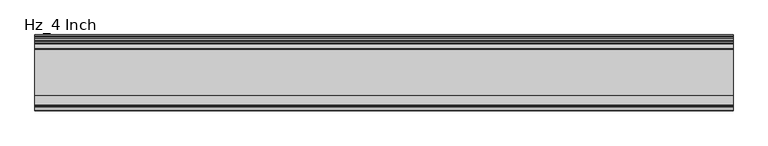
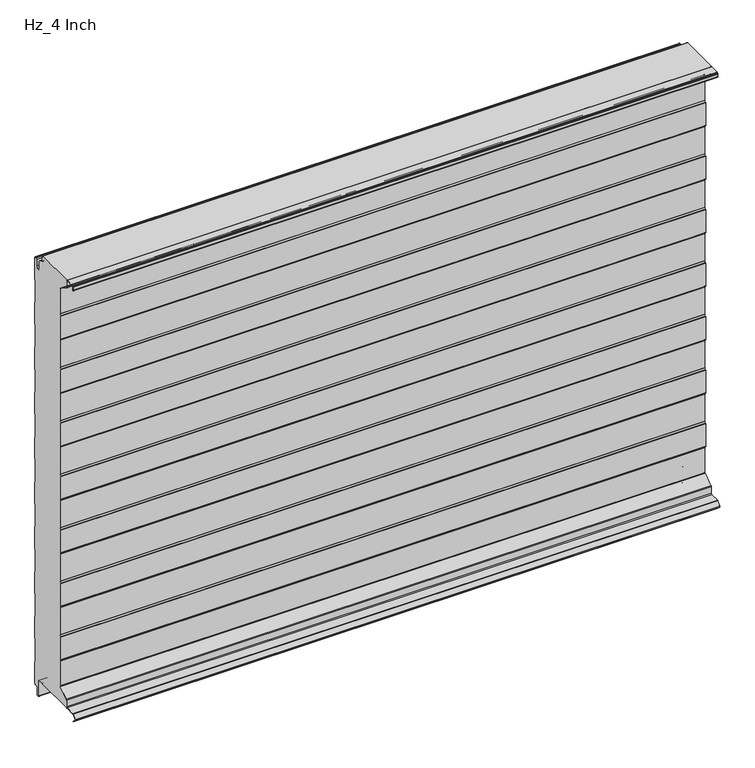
"""IFC4 building model written with IfcOpenShell, lengths in millimetres: plate geometry, KIP_R19_CP_KingSeam_Hz_Roof Panel : Hz_4 Inch."""

from ifc_helpers import new_model, si_unit, point, frame, frame_2d, origin, place, context, project, spatial, polyline, circle_curve, trimmed, segment, composite_curve, outline, extrude, source, transform, mapped, element, save


def hz_4_inch_b0e98372(model_context):
    return source(origin(), model_context, "Body", "SweptSolid", [
        extrude(outline(composite_curve([segment(polyline([(-101.3158093, 535.7535265), (-98.8158809, 539.2132218), (-98.8158809, 603.7867783), (-101.315809, 607.2464732)]), True, "CONTINUOUS"), segment(trimmed(circle_curve(frame_2d((-100.1000003, 608.1249998)), 1.4999999), [point((-101.315809, 607.2464732))], [point((-101.6000002, 608.1249998))], False, "CARTESIAN"), True, "CONTINUOUS"), segment(polyline([(-101.6000002, 608.1249998), (-101.6000003, 661.8749998)]), True, "CONTINUOUS"), segment(trimmed(circle_curve(frame_2d((-100.1000002, 661.8749998)), 1.5), [point((-101.6000003, 661.8749998))], [point((-101.3158089, 662.7535266))], False, "CARTESIAN"), True, "CONTINUOUS"), segment(polyline([(-101.3158089, 662.7535266), (-98.8158807, 666.2132214), (-98.8158807, 730.7867783), (-101.315809, 734.246473)]), True, "CONTINUOUS"), segment(trimmed(circle_curve(frame_2d((-100.1000003, 735.1249998)), 1.5000001), [point((-101.315809, 734.246473))], [point((-101.6000004, 735.1249998))], False, "CARTESIAN"), True, "CONTINUOUS"), segment(polyline([(-101.6000004, 735.1249998), (-101.6000004, 788.8749998)]), True, "CONTINUOUS"), segment(trimmed(circle_curve(frame_2d((-100.1000005, 788.8749998)), 1.4999999), [point((-101.6000004, 788.8749998))], [point((-101.3158091, 789.7535265))], False, "CARTESIAN"), True, "CONTINUOUS"), segment(polyline([(-101.3158091, 789.7535265), (-98.8158803, 793.2132223), (-98.8158803, 857.7867782), (-101.3158086, 861.246473)]), True, "CONTINUOUS"), segment(trimmed(circle_curve(frame_2d((-100.0999999, 862.1249998)), 1.5000001), [point((-101.3158086, 861.246473))], [point((-101.6, 862.1249998))], False, "CARTESIAN"), True, "CONTINUOUS"), segment(polyline([(-101.6, 862.1249998), (-101.6, 915.8749998)]), True, "CONTINUOUS"), segment(trimmed(circle_curve(frame_2d((-100.1000001, 915.8749998)), 1.4999999), [point((-101.6, 915.8749998))], [point((-101.3158088, 916.7535264))], False, "CARTESIAN"), True, "CONTINUOUS"), segment(polyline([(-101.3158088, 916.7535264), (-98.8158808, 920.2132216), (-98.8158808, 979.387149)]), True, "CONTINUOUS"), segment(trimmed(circle_curve(frame_2d((-101.3158808, 979.387149)), 2.5), [point((-98.8158808, 979.387149))], [point((-99.9365754, 981.4722189))], True, "CARTESIAN"), True, "CONTINUOUS"), segment(polyline([(-99.9365754, 981.4722189), (-122.9193251, 996.6756573)]), True, "CONTINUOUS"), segment(trimmed(circle_curve(frame_2d((-121.8158808, 998.3437132)), 2.0), [point((-122.9193251, 996.6756573))], [point((-123.8158808, 998.3437132))], False, "CARTESIAN"), True, "CONTINUOUS"), segment(polyline([(-123.8158808, 998.3437132), (-123.8158808, 1013.8999998)]), True, "CONTINUOUS"), segment(trimmed(circle_curve(frame_2d((-125.9158808, 1013.8999998)), 2.1), [point((-123.8158808, 1013.8999998))], [point((-125.9158808, 1015.9999998))], True, "CARTESIAN"), True, "CONTINUOUS"), segment(polyline([(-125.9158808, 1015.9999998), (-31.9999994, 1015.9999998), (-31.9999994, 1015.1999999), (-30.7664368, 1015.1999999)]), True, "CONTINUOUS"), segment(trimmed(circle_curve(frame_2d((-30.7664368, 1014.1999999)), 1.0), [point((-30.7664368, 1015.1999999))], [point((-29.7664368, 1014.1999999))], False, "CARTESIAN"), True, "CONTINUOUS"), segment(polyline([(-29.7664368, 1014.1999999), (-29.7664368, 1004.6085617)]), True, "CONTINUOUS"), segment(trimmed(circle_curve(frame_2d((-27.7664368, 1004.6085617)), 2.0), [point((-29.7664368, 1004.6085617))], [point((-28.7691573, 1002.8780844))], True, "CARTESIAN"), True, "CONTINUOUS"), segment(polyline([(-28.7691573, 1002.8780844), (-18.9986392, 997.2165837)]), True, "CONTINUOUS"), segment(trimmed(circle_curve(frame_2d((-19.4999994, 996.351345)), 1.0), [point((-18.9986392, 997.2165837))], [point((-18.4999994, 996.351345))], False, "CARTESIAN"), True, "CONTINUOUS"), segment(polyline([(-18.4999994, 996.351345), (-18.4999994, 979.25)]), True, "CONTINUOUS"), segment(trimmed(circle_curve(frame_2d((-13.7499994, 979.25)), 4.75), [point((-18.4999994, 979.25))], [point((-13.7499994, 974.5))], True, "CARTESIAN"), True, "CONTINUOUS"), segment(polyline([(-13.7499994, 974.5), (-12.2499994, 974.5)]), True, "CONTINUOUS"), segment(trimmed(circle_curve(frame_2d((-12.2499994, 979.25)), 4.75), [point((-12.2499994, 974.5))], [point((-7.4999994, 979.25))], True, "CARTESIAN"), True, "CONTINUOUS"), segment(polyline([(-7.4999994, 979.25), (-7.4999994, 994.2157998)]), True, "CONTINUOUS"), segment(trimmed(circle_curve(frame_2d((-4.9999994, 994.2157998)), 2.5), [point((-7.4999994, 994.2157998))], [point((-4.9999994, 996.7157998))], False, "CARTESIAN"), True, "CONTINUOUS"), segment(polyline([(-4.9999994, 996.7157998), (-2.9999994, 996.7157998)]), True, "CONTINUOUS"), segment(trimmed(circle_curve(frame_2d((-2.8161919, 994.6595504)), 2.0644483), [point((-2.9999994, 996.7157998))], [point((-0.7999994, 994.2157998))], False, "CARTESIAN"), True, "CONTINUOUS"), segment(polyline([(-0.7999994, 994.2157998), (-0.7999994, 944.4584772)]), True, "CONTINUOUS"), segment(trimmed(circle_curve(frame_2d((-3.1999994, 944.4584772)), 2.4), [point((-0.7999994, 944.4584772))], [point((-0.9968117, 943.5066559))], False, "CARTESIAN"), True, "CONTINUOUS"), segment(polyline([(-0.9968117, 943.5066559), (-2.0293826, 941.1165567)]), True, "CONTINUOUS"), segment(trimmed(circle_curve(frame_2d((1.0000006, 939.8078024)), 3.3), [point((-2.0293826, 941.1165567))], [point((-2.2999994, 939.8078024))], True, "CARTESIAN"), True, "CONTINUOUS"), segment(polyline([(-2.2999994, 939.8078024), (-2.2999994, 891.4237972)]), True, "CONTINUOUS"), segment(trimmed(circle_curve(frame_2d((1.0000006, 891.4237972)), 3.3), [point((-2.2999994, 891.4237972))], [point((-2.0293826, 890.1150429))], True, "CARTESIAN"), True, "CONTINUOUS"), segment(polyline([(-2.0293826, 890.1150429), (-0.9968117, 887.7249437)]), True, "CONTINUOUS"), segment(trimmed(circle_curve(frame_2d((-3.1999994, 886.7731223)), 2.4), [point((-0.9968117, 887.7249437))], [point((-0.7999994, 886.7731223))], False, "CARTESIAN"), True, "CONTINUOUS"), segment(polyline([(-0.7999994, 886.7731223), (-0.7999994, 837.8584772)]), True, "CONTINUOUS"), segment(trimmed(circle_curve(frame_2d((-3.1999994, 837.8584772)), 2.4), [point((-0.7999994, 837.8584772))], [point((-0.9968117, 836.9066559))], False, "CARTESIAN"), True, "CONTINUOUS"), segment(polyline([(-0.9968117, 836.9066559), (-2.0293826, 834.5165567)]), True, "CONTINUOUS"), segment(trimmed(circle_curve(frame_2d((1.0000006, 833.2078024)), 3.3), [point((-2.0293826, 834.5165567))], [point((-2.2999994, 833.2078024))], True, "CARTESIAN"), True, "CONTINUOUS"), segment(polyline([(-2.2999994, 833.2078024), (-2.2999994, 784.8237972)]), True, "CONTINUOUS"), segment(trimmed(circle_curve(frame_2d((1.0000006, 784.8237972)), 3.3), [point((-2.2999994, 784.8237972))], [point((-2.0293826, 783.5150429))], True, "CARTESIAN"), True, "CONTINUOUS"), segment(polyline([(-2.0293826, 783.5150429), (-0.9968117, 781.1249437)]), True, "CONTINUOUS"), segment(trimmed(circle_curve(frame_2d((-3.1999994, 780.1731223)), 2.4), [point((-0.9968117, 781.1249437))], [point((-0.7999994, 780.1731223))], False, "CARTESIAN"), True, "CONTINUOUS"), segment(polyline([(-0.7999994, 780.1731223), (-0.7999994, 731.2584772)]), True, "CONTINUOUS"), segment(trimmed(circle_curve(frame_2d((-3.1999994, 731.2584772)), 2.4), [point((-0.7999994, 731.2584772))], [point((-0.9968117, 730.3066559))], False, "CARTESIAN"), True, "CONTINUOUS"), segment(polyline([(-0.9968117, 730.3066559), (-2.0293826, 727.9165567)]), True, "CONTINUOUS"), segment(trimmed(circle_curve(frame_2d((1.0000006, 726.6078024)), 3.3), [point((-2.0293826, 727.9165567))], [point((-2.2999994, 726.6078024))], True, "CARTESIAN"), True, "CONTINUOUS"), segment(polyline([(-2.2999994, 726.6078024), (-2.2999994, 678.2237972)]), True, "CONTINUOUS"), segment(trimmed(circle_curve(frame_2d((1.0000006, 678.2237972)), 3.3), [point((-2.2999994, 678.2237972))], [point((-2.0293826, 676.9150429))], True, "CARTESIAN"), True, "CONTINUOUS"), segment(polyline([(-2.0293826, 676.9150429), (-0.9968117, 674.5249437)]), True, "CONTINUOUS"), segment(trimmed(circle_curve(frame_2d((-3.1999994, 673.5731223)), 2.4), [point((-0.9968117, 674.5249437))], [point((-0.7999994, 673.5731223))], False, "CARTESIAN"), True, "CONTINUOUS"), segment(polyline([(-0.7999994, 673.5731223), (-0.7999994, 624.6584772)]), True, "CONTINUOUS"), segment(trimmed(circle_curve(frame_2d((-3.1999994, 624.6584772)), 2.4), [point((-0.7999994, 624.6584772))], [point((-0.9968117, 623.7066559))], False, "CARTESIAN"), True, "CONTINUOUS"), segment(polyline([(-0.9968117, 623.7066559), (-2.0293826, 621.3165567)]), True, "CONTINUOUS"), segment(trimmed(circle_curve(frame_2d((1.0000006, 620.0078024)), 3.3), [point((-2.0293826, 621.3165567))], [point((-2.2999994, 620.0078024))], True, "CARTESIAN"), True, "CONTINUOUS"), segment(polyline([(-2.2999994, 620.0078024), (-2.2999994, 571.6237972)]), True, "CONTINUOUS"), segment(trimmed(circle_curve(frame_2d((1.0000006, 571.6237972)), 3.3), [point((-2.2999994, 571.6237972))], [point((-2.0293826, 570.3150429))], True, "CARTESIAN"), True, "CONTINUOUS"), segment(polyline([(-2.0293826, 570.3150429), (-0.9968117, 567.9249437)]), True, "CONTINUOUS"), segment(trimmed(circle_curve(frame_2d((-3.1999994, 566.9731223)), 2.4), [point((-0.9968117, 567.9249437))], [point((-0.7999994, 566.9731223))], False, "CARTESIAN"), True, "CONTINUOUS"), segment(polyline([(-0.7999994, 566.9731223), (-0.7999994, 518.0584772)]), True, "CONTINUOUS"), segment(trimmed(circle_curve(frame_2d((-3.1999994, 518.0584772)), 2.4), [point((-0.7999994, 518.0584772))], [point((-0.9968117, 517.1066559))], False, "CARTESIAN"), True, "CONTINUOUS"), segment(polyline([(-0.9968117, 517.1066559), (-2.0293826, 514.7165567)]), True, "CONTINUOUS"), segment(trimmed(circle_curve(frame_2d((1.0000006, 513.4078024)), 3.3), [point((-2.0293826, 514.7165567))], [point((-2.2999994, 513.4078024))], True, "CARTESIAN"), True, "CONTINUOUS"), segment(polyline([(-2.2999994, 513.4078024), (-2.2999994, 465.0237972)]), True, "CONTINUOUS"), segment(trimmed(circle_curve(frame_2d((1.0000006, 465.0237972)), 3.3), [point((-2.2999994, 465.0237972))], [point((-2.0293826, 463.7150429))], True, "CARTESIAN"), True, "CONTINUOUS"), segment(polyline([(-2.0293826, 463.7150429), (-0.9968117, 461.3249437)]), True, "CONTINUOUS"), segment(trimmed(circle_curve(frame_2d((-3.1999994, 460.3731223)), 2.4), [point((-0.9968117, 461.3249437))], [point((-0.7999994, 460.3731223))], False, "CARTESIAN"), True, "CONTINUOUS"), segment(polyline([(-0.7999994, 460.3731223), (-0.7999994, 411.4584772)]), True, "CONTINUOUS"), segment(trimmed(circle_curve(frame_2d((-3.1999994, 411.4584772)), 2.4), [point((-0.7999994, 411.4584772))], [point((-0.9968117, 410.5066559))], False, "CARTESIAN"), True, "CONTINUOUS"), segment(polyline([(-0.9968117, 410.5066559), (-2.0293826, 408.1165567)]), True, "CONTINUOUS"), segment(trimmed(circle_curve(frame_2d((1.0000006, 406.8078024)), 3.3), [point((-2.0293826, 408.1165567))], [point((-2.2999994, 406.8078024))], True, "CARTESIAN"), True, "CONTINUOUS"), segment(polyline([(-2.2999994, 406.8078024), (-2.2999994, 358.4237972)]), True, "CONTINUOUS"), segment(trimmed(circle_curve(frame_2d((1.0000006, 358.4237972)), 3.3), [point((-2.2999994, 358.4237972))], [point((-2.0293826, 357.1150429))], True, "CARTESIAN"), True, "CONTINUOUS"), segment(polyline([(-2.0293826, 357.1150429), (-0.9968117, 354.7249437)]), True, "CONTINUOUS"), segment(trimmed(circle_curve(frame_2d((-3.1999994, 353.7731223)), 2.4), [point((-0.9968117, 354.7249437))], [point((-0.7999994, 353.7731223))], False, "CARTESIAN"), True, "CONTINUOUS"), segment(polyline([(-0.7999994, 353.7731223), (-0.7999994, 304.8584772)]), True, "CONTINUOUS"), segment(trimmed(circle_curve(frame_2d((-3.1999994, 304.8584772)), 2.4), [point((-0.7999994, 304.8584772))], [point((-0.9968117, 303.9066559))], False, "CARTESIAN"), True, "CONTINUOUS"), segment(polyline([(-0.9968117, 303.9066559), (-2.0293826, 301.5165567)]), True, "CONTINUOUS"), segment(trimmed(circle_curve(frame_2d((1.0000006, 300.2078024)), 3.3), [point((-2.0293826, 301.5165567))], [point((-2.2999994, 300.2078024))], True, "CARTESIAN"), True, "CONTINUOUS"), segment(polyline([(-2.2999994, 300.2078024), (-2.2999994, 251.8237972)]), True, "CONTINUOUS"), segment(trimmed(circle_curve(frame_2d((1.0000006, 251.8237972)), 3.3), [point((-2.2999994, 251.8237972))], [point((-2.0293826, 250.5150429))], True, "CARTESIAN"), True, "CONTINUOUS"), segment(polyline([(-2.0293826, 250.5150429), (-0.9968117, 248.1249437)]), True, "CONTINUOUS"), segment(trimmed(circle_curve(frame_2d((-3.1999994, 247.1731223)), 2.4), [point((-0.9968117, 248.1249437))], [point((-0.7999994, 247.1731223))], False, "CARTESIAN"), True, "CONTINUOUS"), segment(polyline([(-0.7999994, 247.1731223), (-0.7999994, 198.2584772)]), True, "CONTINUOUS"), segment(trimmed(circle_curve(frame_2d((-3.1999994, 198.2584772)), 2.4), [point((-0.7999994, 198.2584772))], [point((-0.9968117, 197.3066559))], False, "CARTESIAN"), True, "CONTINUOUS"), segment(polyline([(-0.9968117, 197.3066559), (-2.0293826, 194.9165567)]), True, "CONTINUOUS"), segment(trimmed(circle_curve(frame_2d((1.0000006, 193.6078024)), 3.3), [point((-2.0293826, 194.9165567))], [point((-2.2999994, 193.6078024))], True, "CARTESIAN"), True, "CONTINUOUS"), segment(polyline([(-2.2999994, 193.6078024), (-2.2999994, 145.2237972)]), True, "CONTINUOUS"), segment(trimmed(circle_curve(frame_2d((1.0000006, 145.2237972)), 3.3), [point((-2.2999994, 145.2237972))], [point((-2.0293826, 143.9150429))], True, "CARTESIAN"), True, "CONTINUOUS"), segment(polyline([(-2.0293826, 143.9150429), (-0.9968117, 141.5249437)]), True, "CONTINUOUS"), segment(trimmed(circle_curve(frame_2d((-3.1999994, 140.5731223)), 2.4), [point((-0.9968117, 141.5249437))], [point((-0.7999994, 140.5731223))], False, "CARTESIAN"), True, "CONTINUOUS"), segment(polyline([(-0.7999994, 140.5731223), (-0.7999994, 91.6584772)]), True, "CONTINUOUS"), segment(trimmed(circle_curve(frame_2d((-3.1999994, 91.6584772)), 2.4), [point((-0.7999994, 91.6584772))], [point((-0.9968117, 90.7066559))], False, "CARTESIAN"), True, "CONTINUOUS"), segment(polyline([(-0.9968117, 90.7066559), (-2.0293826, 88.3165567)]), True, "CONTINUOUS"), segment(trimmed(circle_curve(frame_2d((1.0000006, 87.0078024)), 3.3), [point((-2.0293826, 88.3165567))], [point((-2.2999994, 87.0078024))], True, "CARTESIAN"), True, "CONTINUOUS"), segment(polyline([(-2.2999994, 87.0078024), (-2.2999994, 38.6237972)]), True, "CONTINUOUS"), segment(trimmed(circle_curve(frame_2d((1.0000006, 38.6237972)), 3.3), [point((-2.2999994, 38.6237972))], [point((-2.0293826, 37.3150429))], True, "CARTESIAN"), True, "CONTINUOUS"), segment(polyline([(-2.0293826, 37.3150429), (-0.9968117, 34.9249437)]), True, "CONTINUOUS"), segment(trimmed(circle_curve(frame_2d((-3.1999994, 33.9731223)), 2.4), [point((-0.9968117, 34.9249437))], [point((-0.7999994, 33.9731223))], False, "CARTESIAN"), True, "CONTINUOUS"), segment(polyline([(-0.7999994, 33.9731223), (-0.7999994, -15.7842002)]), True, "CONTINUOUS"), segment(trimmed(circle_curve(frame_2d((-2.8161919, -16.2279508)), 2.0644483), [point((-0.7999994, -15.7842002))], [point((-2.9999994, -18.2842002))], False, "CARTESIAN"), True, "CONTINUOUS"), segment(polyline([(-2.9999994, -18.2842002), (-6.4999994, -18.2842002)]), True, "CONTINUOUS"), segment(trimmed(circle_curve(frame_2d((-6.4999994, -21.2842002)), 3.0), [point((-6.4999994, -18.2842002))], [point((-9.4999994, -21.2842002))], True, "CARTESIAN"), True, "CONTINUOUS"), segment(polyline([(-9.4999994, -21.2842002), (-9.4999994, -37.0)]), True, "CONTINUOUS"), segment(trimmed(circle_curve(frame_2d((-11.9999994, -37.0)), 2.5), [point((-9.4999994, -37.0))], [point((-11.9999994, -39.5))], False, "CARTESIAN"), True, "CONTINUOUS"), segment(polyline([(-11.9999994, -39.5), (-13.9999994, -39.5)]), True, "CONTINUOUS"), segment(trimmed(circle_curve(frame_2d((-13.9999994, -37.0)), 2.5), [point((-13.9999994, -39.5))], [point((-16.4999994, -37.0))], False, "CARTESIAN"), True, "CONTINUOUS"), segment(polyline([(-16.4999994, -37.0), (-16.4999994, -1.5)]), True, "CONTINUOUS"), segment(trimmed(circle_curve(frame_2d((-18.4999994, -1.5)), 2.0), [point((-16.4999994, -1.5))], [point((-18.4999994, 0.5))], True, "CARTESIAN"), True, "CONTINUOUS"), segment(polyline([(-18.4999994, 0.5), (-29.6999994, 0.5)]), True, "CONTINUOUS"), segment(trimmed(circle_curve(frame_2d((-29.6999994, 2.0)), 1.5), [point((-29.6999994, 0.5))], [point((-31.1999994, 2.0))], False, "CARTESIAN"), True, "CONTINUOUS"), segment(polyline([(-31.1999994, 2.0), (-31.1999994, 9.5), (-31.9999994, 9.5), (-31.9999994, 2.0)]), True, "CONTINUOUS"), segment(trimmed(circle_curve(frame_2d((-29.9999994, 2.0)), 2.0), [point((-31.9999994, 2.0))], [point((-29.9999994, 0.0))], True, "CARTESIAN"), True, "CONTINUOUS"), segment(polyline([(-29.9999994, 0.0), (-125.9158809, 0.0)]), True, "CONTINUOUS"), segment(trimmed(circle_curve(frame_2d((-125.9158809, 2.0999999)), 2.0999999), [point((-125.9158809, 0.0))], [point((-123.8158811, 2.0999999))], True, "CARTESIAN"), True, "CONTINUOUS"), segment(polyline([(-123.8158811, 2.0999999), (-123.8158811, 17.6562865)]), True, "CONTINUOUS"), segment(trimmed(circle_curve(frame_2d((-121.8158811, 17.6562865)), 2.0), [point((-123.8158811, 17.6562865))], [point((-122.9193254, 19.3243424))], False, "CARTESIAN"), True, "CONTINUOUS"), segment(polyline([(-122.9193254, 19.3243424), (-99.9365754, 34.5277806)]), True, "CONTINUOUS"), segment(trimmed(circle_curve(frame_2d((-101.3158809, 36.6128507)), 2.5000002), [point((-99.9365754, 34.5277806))], [point((-98.8158807, 36.6128507))], True, "CARTESIAN"), True, "CONTINUOUS"), segment(polyline([(-98.8158807, 36.6128507), (-98.8158807, 95.7867783), (-101.315809, 99.2464731)]), True, "CONTINUOUS"), segment(trimmed(circle_curve(frame_2d((-100.1000002, 100.1249999)), 1.5000002), [point((-101.315809, 99.2464731))], [point((-101.6000003, 100.1249999))], False, "CARTESIAN"), True, "CONTINUOUS"), segment(polyline([(-101.6000003, 100.1249999), (-101.6000003, 153.8749999)]), True, "CONTINUOUS"), segment(trimmed(circle_curve(frame_2d((-100.1000001, 153.8749999)), 1.5000002), [point((-101.6000003, 153.8749999))], [point((-101.315809, 154.7535268))], False, "CARTESIAN"), True, "CONTINUOUS"), segment(polyline([(-101.315809, 154.7535268), (-98.8158807, 158.2132214), (-98.8158807, 222.7867783), (-101.315809, 226.2464731)]), True, "CONTINUOUS"), segment(trimmed(circle_curve(frame_2d((-100.1000003, 227.1249999)), 1.5000001), [point((-101.315809, 226.2464731))], [point((-101.6000004, 227.1249999))], False, "CARTESIAN"), True, "CONTINUOUS"), segment(polyline([(-101.6000004, 227.1249999), (-101.6000004, 280.8749999)]), True, "CONTINUOUS"), segment(trimmed(circle_curve(frame_2d((-100.1000006, 280.8749999)), 1.4999997), [point((-101.6000004, 280.8749999))], [point((-101.3158092, 281.7535264))], False, "CARTESIAN"), True, "CONTINUOUS"), segment(polyline([(-101.3158092, 281.7535264), (-98.8158809, 285.2132219), (-98.8158809, 349.7867783), (-101.3158092, 353.246473)]), True, "CONTINUOUS"), segment(trimmed(circle_curve(frame_2d((-100.1000005, 354.1249999)), 1.5000001), [point((-101.3158092, 353.246473))], [point((-101.6000006, 354.1249999))], False, "CARTESIAN"), True, "CONTINUOUS"), segment(polyline([(-101.6000006, 354.1249999), (-101.6000006, 407.8749998)]), True, "CONTINUOUS"), segment(trimmed(circle_curve(frame_2d((-100.1000006, 407.8749998)), 1.4999999), [point((-101.6000006, 407.8749998))], [point((-101.3158093, 408.7535265))], False, "CARTESIAN"), True, "CONTINUOUS"), segment(polyline([(-101.3158093, 408.7535265), (-98.8158809, 412.2132218), (-98.8158809, 476.7867783), (-101.3158092, 480.246473)]), True, "CONTINUOUS"), segment(trimmed(circle_curve(frame_2d((-100.1000005, 481.1249999)), 1.5000001), [point((-101.3158092, 480.246473))], [point((-101.6000006, 481.1249999))], False, "CARTESIAN"), True, "CONTINUOUS"), segment(polyline([(-101.6000006, 481.1249999), (-101.6000006, 534.8749998)]), True, "CONTINUOUS"), segment(trimmed(circle_curve(frame_2d((-100.1000006, 534.8749998)), 1.4999999), [point((-101.6000006, 534.8749998))], [point((-101.3158093, 535.7535265))], False, "CARTESIAN"), True, "CONTINUOUS")], self_intersect=False)), frame((-723.9042608, 0.0, 0.0), z_axis=(1.0, 0.0, 0.0), x_axis=(0.0, 1.0, 0.0)), (0.0, 0.0, 1.0), 1447.8085217),
        extrude(outline(composite_curve([segment(polyline([(-101.8158084, 154.7942705), (-99.315881, 158.253964), (-99.315881, 222.8275218), (-101.815809, 226.287217)]), True, "CONTINUOUS"), segment(trimmed(circle_curve(frame_2d((-100.6000005, 227.1657434)), 1.4999996), [point((-101.815809, 226.287217))], [point((-102.0999998, 227.1667148))], False, "CARTESIAN"), True, "CONTINUOUS"), segment(polyline([(-102.0999998, 227.1667148), (-102.0999998, 280.9157434)]), True, "CONTINUOUS"), segment(trimmed(circle_curve(frame_2d((-100.5999998, 280.9157434)), 1.5), [point((-102.0999998, 280.9157434))], [point((-101.8158085, 281.7942702))], False, "CARTESIAN"), True, "CONTINUOUS"), segment(polyline([(-101.8158085, 281.7942702), (-99.3158804, 285.2539647), (-99.3158804, 349.8275216), (-101.8158085, 353.2872165)]), True, "CONTINUOUS"), segment(trimmed(circle_curve(frame_2d((-100.5999998, 354.1657432)), 1.4999999), [point((-101.8158085, 353.2872165))], [point((-102.0999994, 354.1667146))], False, "CARTESIAN"), True, "CONTINUOUS"), segment(polyline([(-102.0999994, 354.1667146), (-102.0999994, 407.9157432)]), True, "CONTINUOUS"), segment(trimmed(circle_curve(frame_2d((-100.5999995, 407.9157432)), 1.4999999), [point((-102.0999994, 407.9157432))], [point((-101.8158082, 408.7942699))], False, "CARTESIAN"), True, "CONTINUOUS"), segment(polyline([(-101.8158082, 408.7942699), (-99.3158804, 412.2539643), (-99.3158804, 476.8275216), (-101.8158085, 480.2872164)]), True, "CONTINUOUS"), segment(trimmed(circle_curve(frame_2d((-100.5999998, 481.1657432)), 1.5), [point((-101.8158085, 480.2872164))], [point((-102.0999995, 481.1667146))], False, "CARTESIAN"), True, "CONTINUOUS"), segment(polyline([(-102.0999995, 481.1667146), (-102.0999995, 534.9157431)]), True, "CONTINUOUS"), segment(trimmed(circle_curve(frame_2d((-100.5999995, 534.9157431)), 1.5), [point((-102.0999995, 534.9157431))], [point((-101.8158082, 535.7942699))], False, "CARTESIAN"), True, "CONTINUOUS"), segment(polyline([(-101.8158082, 535.7942699), (-99.3158804, 539.2539643), (-99.3158804, 603.8275216), (-101.8158085, 607.2872164)]), True, "CONTINUOUS"), segment(trimmed(circle_curve(frame_2d((-100.5999998, 608.1657431)), 1.5), [point((-101.8158085, 607.2872164))], [point((-102.0999995, 608.1667146))], False, "CARTESIAN"), True, "CONTINUOUS"), segment(polyline([(-102.0999995, 608.1667146), (-102.0999995, 661.9157431)]), True, "CONTINUOUS"), segment(trimmed(circle_curve(frame_2d((-100.5999995, 661.9157431)), 1.5), [point((-102.0999995, 661.9157431))], [point((-101.8158082, 662.7942699))], False, "CARTESIAN"), True, "CONTINUOUS"), segment(polyline([(-101.8158082, 662.7942699), (-99.3158804, 666.2539641), (-99.3158804, 730.8275214), (-101.8158087, 734.2872159)]), True, "CONTINUOUS"), segment(trimmed(circle_curve(frame_2d((-100.5999998, 735.1657429)), 1.5000003), [point((-101.8158087, 734.2872159))], [point((-102.0999999, 735.1667144))], False, "CARTESIAN"), True, "CONTINUOUS"), segment(polyline([(-102.0999999, 735.1667144), (-102.0999999, 788.915743)]), True, "CONTINUOUS"), segment(trimmed(circle_curve(frame_2d((-100.5999998, 788.915743)), 1.5), [point((-102.0999999, 788.915743))], [point((-101.8158085, 789.7942697))], False, "CARTESIAN"), True, "CONTINUOUS"), segment(polyline([(-101.8158085, 789.7942697), (-99.3158804, 793.2539644), (-99.3158804, 857.8275212), (-101.8158085, 861.2872162)]), True, "CONTINUOUS"), segment(trimmed(circle_curve(frame_2d((-100.5999999, 862.1657428)), 1.4999999), [point((-101.8158085, 861.2872162))], [point((-102.0999995, 862.1667142))], False, "CARTESIAN"), True, "CONTINUOUS"), segment(polyline([(-102.0999995, 862.1667142), (-102.0999995, 915.9157427)]), True, "CONTINUOUS"), segment(trimmed(circle_curve(frame_2d((-100.5999994, 915.9157427)), 1.5000001), [point((-102.0999995, 915.9157427))], [point((-101.8158081, 916.7942695))], False, "CARTESIAN"), True, "CONTINUOUS"), segment(polyline([(-101.8158081, 916.7942695), (-99.3158806, 920.2539634), (-99.3158806, 979.4278919)]), True, "CONTINUOUS"), segment(trimmed(circle_curve(frame_2d((-101.3158804, 979.4278919)), 1.9999997), [point((-99.3158806, 979.4278919))], [point((-100.2124361, 981.0959476))], True, "CARTESIAN"), True, "CONTINUOUS"), segment(polyline([(-100.2124361, 981.0959476), (-123.1951861, 996.2993863)]), True, "CONTINUOUS"), segment(trimmed(circle_curve(frame_2d((-121.8158807, 998.3844561)), 2.4999999), [point((-123.1951861, 996.2993863))], [point((-124.3158806, 998.3844561))], False, "CARTESIAN"), True, "CONTINUOUS"), segment(polyline([(-124.3158806, 998.3844561), (-124.3158806, 1013.9407427)]), True, "CONTINUOUS"), segment(trimmed(circle_curve(frame_2d((-125.9158806, 1013.9407427)), 1.6), [point((-124.3158806, 1013.9407427))], [point((-125.9158806, 1015.5407427))], True, "CARTESIAN"), True, "CONTINUOUS"), segment(polyline([(-125.9158806, 1015.5407427), (-146.7669597, 1015.5407427)]), True, "CONTINUOUS"), segment(trimmed(circle_curve(frame_2d((-146.7669597, 1014.3507427)), 1.19), [point((-146.7669597, 1015.5407427))], [point((-147.6084168, 1015.1921998))], True, "CARTESIAN"), True, "CONTINUOUS"), segment(polyline([(-147.6084168, 1015.1921998), (-148.6184377, 1014.1821788)]), True, "CONTINUOUS"), segment(trimmed(circle_curve(frame_2d((-147.7769807, 1013.3407218)), 1.19), [point((-148.6184377, 1014.1821788))], [point((-148.9669807, 1013.3407218))], True, "CARTESIAN"), True, "CONTINUOUS"), segment(polyline([(-148.9669807, 1013.3407218), (-148.9669807, 1006.6107427)]), True, "CONTINUOUS"), segment(trimmed(circle_curve(frame_2d((-148.5669807, 1006.6107427)), 0.4), [point((-148.9669807, 1006.6107427))], [point((-148.1669807, 1006.6107427))], True, "CARTESIAN"), True, "CONTINUOUS"), segment(polyline([(-148.1669807, 1006.6107427), (-148.1669807, 1013.3407218), (-147.3669807, 1013.3407218), (-147.3669807, 1006.6107427)]), True, "CONTINUOUS"), segment(trimmed(circle_curve(frame_2d((-148.4169807, 1006.6107427)), 1.05), [point((-147.3669807, 1006.6107427))], [point((-149.4669807, 1006.6107427))], False, "CARTESIAN"), True, "CONTINUOUS"), segment(polyline([(-149.4669807, 1006.6107427), (-149.4669807, 1013.3407218)]), True, "CONTINUOUS"), segment(trimmed(circle_curve(frame_2d((-147.7769807, 1013.3407218)), 1.69), [point((-149.4669807, 1013.3407218))], [point((-148.971991, 1014.5357324))], False, "CARTESIAN"), True, "CONTINUOUS"), segment(polyline([(-148.971991, 1014.5357324), (-147.96197, 1015.5457532)]), True, "CONTINUOUS"), segment(trimmed(circle_curve(frame_2d((-146.7669597, 1014.3507427)), 1.6899998), [point((-147.96197, 1015.5457532))], [point((-146.7669597, 1016.0407425))], False, "CARTESIAN"), True, "CONTINUOUS"), segment(polyline([(-146.7669597, 1016.0407425), (-125.9158805, 1016.0407425)]), True, "CONTINUOUS"), segment(trimmed(circle_curve(frame_2d((-125.9158805, 1013.9407427)), 2.0999998), [point((-125.9158805, 1016.0407425))], [point((-123.8158807, 1013.9407427))], False, "CARTESIAN"), True, "CONTINUOUS"), segment(polyline([(-123.8158807, 1013.9407427), (-123.8158807, 998.3844561)]), True, "CONTINUOUS"), segment(trimmed(circle_curve(frame_2d((-121.8158807, 998.3844561)), 2.0), [point((-123.8158807, 998.3844561))], [point((-122.919325, 996.7164001))], True, "CARTESIAN"), True, "CONTINUOUS"), segment(polyline([(-122.919325, 996.7164001), (-99.9365749, 981.5129618)]), True, "CONTINUOUS"), segment(trimmed(circle_curve(frame_2d((-101.3158804, 979.4278919)), 2.5), [point((-99.9365749, 981.5129618))], [point((-98.8158803, 979.4278919))], False, "CARTESIAN"), True, "CONTINUOUS"), segment(polyline([(-98.8158803, 979.4278919), (-98.8158803, 920.2539643), (-101.3158086, 916.7942696)]), True, "CONTINUOUS"), segment(trimmed(circle_curve(frame_2d((-100.0999998, 915.9157427)), 1.5000002), [point((-101.3158086, 916.7942696))], [point((-101.5999999, 915.9157427))], True, "CARTESIAN"), True, "CONTINUOUS"), segment(polyline([(-101.5999999, 915.9157427), (-101.5999999, 862.1657428)]), True, "CONTINUOUS"), segment(trimmed(circle_curve(frame_2d((-100.0999999, 862.1657428)), 1.5), [point((-101.5999999, 862.1657428))], [point((-101.3158086, 861.287216))], True, "CARTESIAN"), True, "CONTINUOUS"), segment(polyline([(-101.3158086, 861.287216), (-98.8158803, 857.8275213), (-98.8158803, 793.2539644), (-101.3158087, 789.7942698)]), True, "CONTINUOUS"), segment(trimmed(circle_curve(frame_2d((-100.1000001, 788.915743)), 1.5), [point((-101.3158087, 789.7942698))], [point((-101.6000001, 788.915743))], True, "CARTESIAN"), True, "CONTINUOUS"), segment(polyline([(-101.6000001, 788.915743), (-101.6000001, 735.165743)]), True, "CONTINUOUS"), segment(trimmed(circle_curve(frame_2d((-100.1000001, 735.165743)), 1.5), [point((-101.6000001, 735.165743))], [point((-101.3158088, 734.2872162))], True, "CARTESIAN"), True, "CONTINUOUS"), segment(polyline([(-101.3158088, 734.2872162), (-98.8158803, 730.827521), (-98.8158803, 666.2539645), (-101.3158086, 662.7942699)]), True, "CONTINUOUS"), segment(trimmed(circle_curve(frame_2d((-100.0999999, 661.9157431)), 1.5), [point((-101.3158086, 662.7942699))], [point((-101.5999999, 661.9157431))], True, "CARTESIAN"), True, "CONTINUOUS"), segment(polyline([(-101.5999999, 661.9157431), (-101.5999999, 608.1657431)]), True, "CONTINUOUS"), segment(trimmed(circle_curve(frame_2d((-100.1000001, 608.1657431)), 1.4999998), [point((-101.5999999, 608.1657431))], [point((-101.3158087, 607.2872166))], True, "CARTESIAN"), True, "CONTINUOUS"), segment(polyline([(-101.3158087, 607.2872166), (-98.8158803, 603.8275211), (-98.8158803, 539.2539647), (-101.3158086, 535.79427)]), True, "CONTINUOUS"), segment(trimmed(circle_curve(frame_2d((-100.0999999, 534.9157431)), 1.5000001), [point((-101.3158086, 535.79427))], [point((-101.6, 534.9157431))], True, "CARTESIAN"), True, "CONTINUOUS"), segment(polyline([(-101.6, 534.9157431), (-101.6, 481.1657432)]), True, "CONTINUOUS"), segment(trimmed(circle_curve(frame_2d((-100.1000001, 481.1657432)), 1.4999999), [point((-101.6, 481.1657432))], [point((-101.3158087, 480.2872165))], True, "CARTESIAN"), True, "CONTINUOUS"), segment(polyline([(-101.3158087, 480.2872165), (-98.8158803, 476.8275212), (-98.8158803, 412.2539647), (-101.3158084, 408.7942698)]), True, "CONTINUOUS"), segment(trimmed(circle_curve(frame_2d((-100.0999998, 407.9157432)), 1.4999999), [point((-101.3158084, 408.7942698))], [point((-101.5999997, 407.9157432))], True, "CARTESIAN"), True, "CONTINUOUS"), segment(polyline([(-101.5999997, 407.9157432), (-101.5999997, 354.1657432)]), True, "CONTINUOUS"), segment(trimmed(circle_curve(frame_2d((-100.0999996, 354.1657432)), 1.5), [point((-101.5999997, 354.1657432))], [point((-101.3158084, 353.2872165))], True, "CARTESIAN"), True, "CONTINUOUS"), segment(polyline([(-101.3158084, 353.2872165), (-98.8158803, 349.8275216), (-98.8158803, 285.2539647), (-101.3158084, 281.7942701)]), True, "CONTINUOUS"), segment(trimmed(circle_curve(frame_2d((-100.0999997, 280.9157434)), 1.5), [point((-101.3158084, 281.7942701))], [point((-101.5999997, 280.9157434))], True, "CARTESIAN"), True, "CONTINUOUS"), segment(polyline([(-101.5999997, 280.9157434), (-101.5999997, 227.1657434)]), True, "CONTINUOUS"), segment(trimmed(circle_curve(frame_2d((-100.1000002, 227.1657434)), 1.4999994), [point((-101.5999997, 227.1657434))], [point((-101.3158086, 226.2872172))], True, "CARTESIAN"), True, "CONTINUOUS"), segment(polyline([(-101.3158086, 226.2872172), (-98.8158803, 222.8275209), (-98.8158803, 158.253965), (-101.3158083, 154.7942704)]), True, "CONTINUOUS"), segment(trimmed(circle_curve(frame_2d((-100.0999997, 153.9157437)), 1.4999999), [point((-101.3158083, 154.7942704))], [point((-101.5999996, 153.9157437))], True, "CARTESIAN"), True, "CONTINUOUS"), segment(polyline([(-101.5999996, 153.9157437), (-101.5999996, 100.1657438)]), True, "CONTINUOUS"), segment(trimmed(circle_curve(frame_2d((-100.0999999, 100.1657438)), 1.4999998), [point((-101.5999996, 100.1657438))], [point((-101.3158084, 99.2872172))], True, "CARTESIAN"), True, "CONTINUOUS"), segment(polyline([(-101.3158084, 99.2872172), (-98.8158803, 95.8275222), (-98.8158803, 36.6535949)]), True, "CONTINUOUS"), segment(trimmed(circle_curve(frame_2d((-101.3158801, 36.6535949)), 2.4999998), [point((-98.8158803, 36.6535949))], [point((-99.9365748, 34.5685251))], False, "CARTESIAN"), True, "CONTINUOUS"), segment(polyline([(-99.9365748, 34.5685251), (-122.919325, 19.3650867)]), True, "CONTINUOUS"), segment(trimmed(circle_curve(frame_2d((-121.8158806, 17.6970308)), 2.0), [point((-122.919325, 19.3650867))], [point((-123.8158806, 17.6970308))], True, "CARTESIAN"), True, "CONTINUOUS"), segment(polyline([(-123.8158806, 17.6970308), (-123.8158806, 2.1407442)]), True, "CONTINUOUS"), segment(trimmed(circle_curve(frame_2d((-125.9158807, 2.1407442)), 2.1000001), [point((-123.8158806, 2.1407442))], [point((-125.9158807, 0.0407441))], False, "CARTESIAN"), True, "CONTINUOUS"), segment(polyline([(-125.9158807, 0.0407441), (-148.8505141, 0.0407441)]), True, "CONTINUOUS"), segment(trimmed(circle_curve(frame_2d((-148.8505141, -1.4592559)), 1.5), [point((-148.8505141, 0.0407441))], [point((-149.9111742, -0.3985957))], True, "CARTESIAN"), True, "CONTINUOUS"), segment(polyline([(-149.9111742, -0.3985957), (-157.4309954, -7.9184169)]), True, "CONTINUOUS"), segment(trimmed(circle_curve(frame_2d((-156.4012712, -8.4443276)), 1.15625), [point((-157.4309954, -7.9184169))], [point((-157.2188634, -9.2619198))], True, "CARTESIAN"), True, "CONTINUOUS"), segment(polyline([(-157.2188634, -9.2619198), (-149.8649529, -16.6158303), (-150.4306383, -17.1815158), (-157.7845488, -9.8276052)]), True, "CONTINUOUS"), segment(trimmed(circle_curve(frame_2d((-156.653178, -8.6962344)), 1.6), [point((-157.7845488, -9.8276052))], [point((-157.7845488, -7.5648635))], False, "CARTESIAN"), True, "CONTINUOUS"), segment(polyline([(-157.7845488, -7.5648635), (-150.2647276, -0.0450423)]), True, "CONTINUOUS"), segment(trimmed(circle_curve(frame_2d((-148.8505141, -1.4592559)), 2.0), [point((-150.2647276, -0.0450423))], [point((-148.8505141, 0.5407441))], False, "CARTESIAN"), True, "CONTINUOUS"), segment(polyline([(-148.8505141, 0.5407441), (-125.9158807, 0.5407441)]), True, "CONTINUOUS"), segment(trimmed(circle_curve(frame_2d((-125.9158807, 2.1407442)), 1.6000001), [point((-125.9158807, 0.5407441))], [point((-124.3158806, 2.1407442))], True, "CARTESIAN"), True, "CONTINUOUS"), segment(polyline([(-124.3158806, 2.1407442), (-124.3158806, 17.6970308)]), True, "CONTINUOUS"), segment(trimmed(circle_curve(frame_2d((-121.8158806, 17.6970308)), 2.4999999), [point((-124.3158806, 17.6970308))], [point((-123.1951861, 19.7821006))], False, "CARTESIAN"), True, "CONTINUOUS"), segment(polyline([(-123.1951861, 19.7821006), (-100.212436, 34.9855394)]), True, "CONTINUOUS"), segment(trimmed(circle_curve(frame_2d((-101.3158801, 36.6535949)), 1.9999995), [point((-100.212436, 34.9855394))], [point((-99.3158806, 36.6535949))], True, "CARTESIAN"), True, "CONTINUOUS"), segment(polyline([(-99.3158806, 36.6535949), (-99.3158806, 95.8275222), (-101.8158088, 99.2872171)]), True, "CONTINUOUS"), segment(trimmed(circle_curve(frame_2d((-100.6000001, 100.1657438)), 1.5), [point((-101.8158088, 99.2872171))], [point((-102.0999997, 100.1667151))], False, "CARTESIAN"), True, "CONTINUOUS"), segment(polyline([(-102.0999997, 100.1667151), (-102.0999997, 153.9157437)]), True, "CONTINUOUS"), segment(trimmed(circle_curve(frame_2d((-100.5999998, 153.9157437)), 1.5), [point((-102.0999997, 153.9157437))], [point((-101.8158084, 154.7942705))], False, "CARTESIAN"), True, "CONTINUOUS")], self_intersect=False)), frame((-723.9042608, 0.0, 0.0), z_axis=(1.0, 0.0, 0.0), x_axis=(0.0, 1.0, 0.0)), (0.0, 0.0, 1.0), 1447.8085217),
    ])


if __name__ == "__main__":
    model = new_model("IFC4")
    model_context = context("Model", 3, world=origin())
    ifc_project = project(units=[si_unit("LENGTHUNIT", "METRE", prefix="MILLI")], contexts=[model_context])
    site = spatial("IfcSite", under=ifc_project)
    building = spatial("IfcBuilding", under=site)
    placement = place(None, origin())
    hz_4_inch_shape = hz_4_inch_b0e98372(model_context)
    element("IfcPlate", 1, ObjectType="KIP_R19_CP_KingSeam_Hz_Roof Panel : Hz_4 Inch", at=placement, inside=building, context=model_context, shape_type="MappedRepresentation", body=[
        mapped(hz_4_inch_shape, transform((0.0, 0.0, 0.0), x_axis=(1.0, 0.0, 0.0), y_axis=(0.0, 1.0, 0.0), z_axis=(0.0, 0.0, 1.0))),
    ])
    save(model, "model.ifc")
